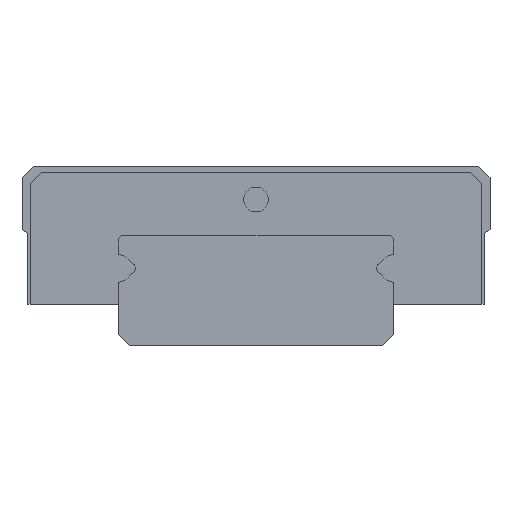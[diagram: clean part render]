
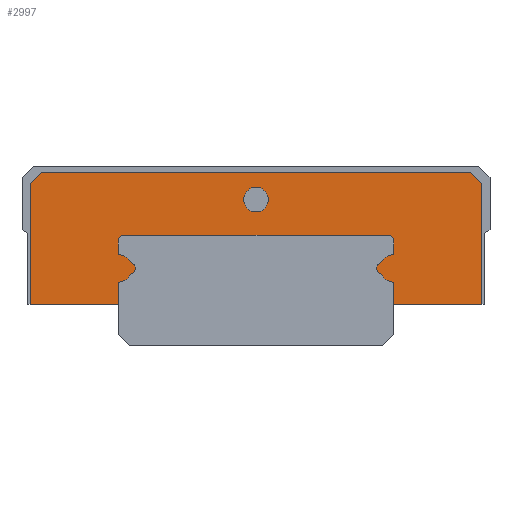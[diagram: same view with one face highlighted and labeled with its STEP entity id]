
A CAD part, left-side view. The second image highlights one B-rep face of the part: STEP entity #2997.
In plain terms, the highlighted planar face has unit normal (-1, 0, 0).
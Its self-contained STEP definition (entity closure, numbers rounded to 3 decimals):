
#1477=CARTESIAN_POINT('',(0.0,0.45,5.3));
#1478=VERTEX_POINT('',#1477);
#1479=CARTESIAN_POINT('',(0.0,0.,5.3));
#1480=DIRECTION('',(1.0,0.0,0.0));
#1481=DIRECTION('',(0.0,-1.0,0.0));
#1482=AXIS2_PLACEMENT_3D('',#1479,#1480,#1481);
#1483=CIRCLE('',#1482,0.45);
#1484=EDGE_CURVE('',#1478,#1478,#1483,.T.);
#2202=CARTESIAN_POINT('',(0.0,8.2,1.5));
#2203=VERTEX_POINT('',#2202);
#2210=CARTESIAN_POINT('',(0.0,8.2,5.9));
#2211=VERTEX_POINT('',#2210);
#2212=CARTESIAN_POINT('',(0.0,8.2,5.9));
#2213=DIRECTION('',(0.0,0.0,-1.0));
#2214=VECTOR('',#2213,4.4);
#2215=LINE('',#2212,#2214);
#2216=EDGE_CURVE('',#2211,#2203,#2215,.T.);
#2265=CARTESIAN_POINT('',(0.0,7.8,6.3));
#2266=VERTEX_POINT('',#2265);
#2267=CARTESIAN_POINT('',(0.0,7.8,6.3));
#2268=DIRECTION('',(0.0,0.707,-0.707));
#2269=VECTOR('',#2268,0.566);
#2270=LINE('',#2267,#2269);
#2271=EDGE_CURVE('',#2266,#2211,#2270,.T.);
#2313=CARTESIAN_POINT('',(0.0,-7.8,6.3));
#2314=VERTEX_POINT('',#2313);
#2315=CARTESIAN_POINT('',(0.0,-7.8,6.3));
#2316=DIRECTION('',(0.0,1.0,0.0));
#2317=VECTOR('',#2316,15.6);
#2318=LINE('',#2315,#2317);
#2319=EDGE_CURVE('',#2314,#2266,#2318,.T.);
#2361=CARTESIAN_POINT('',(0.0,-8.2,5.9));
#2362=VERTEX_POINT('',#2361);
#2363=CARTESIAN_POINT('',(0.0,-8.2,5.9));
#2364=DIRECTION('',(0.0,0.707,0.707));
#2365=VECTOR('',#2364,0.566);
#2366=LINE('',#2363,#2365);
#2367=EDGE_CURVE('',#2362,#2314,#2366,.T.);
#2409=CARTESIAN_POINT('',(0.0,-8.2,1.5));
#2410=VERTEX_POINT('',#2409);
#2411=CARTESIAN_POINT('',(0.0,-8.2,1.5));
#2412=DIRECTION('',(0.0,0.0,1.0));
#2413=VECTOR('',#2412,4.4);
#2414=LINE('',#2411,#2413);
#2415=EDGE_CURVE('',#2410,#2362,#2414,.T.);
#2463=CARTESIAN_POINT('',(0.0,5.,1.5));
#2464=VERTEX_POINT('',#2463);
#2471=CARTESIAN_POINT('',(0.0,8.2,1.5));
#2472=DIRECTION('',(0.0,-1.0,0.0));
#2473=VECTOR('',#2472,3.2);
#2474=LINE('',#2471,#2473);
#2475=EDGE_CURVE('',#2203,#2464,#2474,.T.);
#2498=CARTESIAN_POINT('',(0.0,5.,2.3));
#2499=VERTEX_POINT('',#2498);
#2506=CARTESIAN_POINT('',(0.0,5.,1.5));
#2507=DIRECTION('',(0.0,0.0,1.0));
#2508=VECTOR('',#2507,0.8);
#2509=LINE('',#2506,#2508);
#2510=EDGE_CURVE('',#2464,#2499,#2509,.T.);
#2530=CARTESIAN_POINT('',(0.0,4.54,2.604));
#2531=VERTEX_POINT('',#2530);
#2538=CARTESIAN_POINT('',(0.0,5.,2.8));
#2539=DIRECTION('',(-1.0,0.0,0.0));
#2540=DIRECTION('',(0.0,0.92,0.392));
#2541=AXIS2_PLACEMENT_3D('',#2538,#2539,#2540);
#2542=CIRCLE('',#2541,0.5);
#2543=EDGE_CURVE('',#2499,#2531,#2542,.T.);
#2563=CARTESIAN_POINT('',(0.0,4.54,2.996));
#2564=VERTEX_POINT('',#2563);
#2571=CARTESIAN_POINT('',(0.0,4.58,2.8));
#2572=DIRECTION('',(-1.,0.0,0.0));
#2573=DIRECTION('',(0.0,0.2,-0.98));
#2574=AXIS2_PLACEMENT_3D('',#2571,#2572,#2573);
#2575=CIRCLE('',#2574,0.2);
#2576=EDGE_CURVE('',#2531,#2564,#2575,.T.);
#2596=CARTESIAN_POINT('',(0.0,5.,3.3));
#2597=VERTEX_POINT('',#2596);
#2604=CARTESIAN_POINT('',(0.0,5.,2.8));
#2605=DIRECTION('',(-1.0,0.0,0.0));
#2606=DIRECTION('',(0.0,0.0,-1.0));
#2607=AXIS2_PLACEMENT_3D('',#2604,#2605,#2606);
#2608=CIRCLE('',#2607,0.5);
#2609=EDGE_CURVE('',#2564,#2597,#2608,.T.);
#2628=CARTESIAN_POINT('',(0.0,5.,3.8));
#2629=VERTEX_POINT('',#2628);
#2636=CARTESIAN_POINT('',(0.0,5.,3.3));
#2637=DIRECTION('',(0.0,0.0,1.0));
#2638=VECTOR('',#2637,0.5);
#2639=LINE('',#2636,#2638);
#2640=EDGE_CURVE('',#2597,#2629,#2639,.T.);
#2660=CARTESIAN_POINT('',(0.0,4.8,4.));
#2661=VERTEX_POINT('',#2660);
#2668=CARTESIAN_POINT('',(0.0,4.8,3.8));
#2669=DIRECTION('',(1.0,0.0,0.0));
#2670=DIRECTION('',(0.0,1.0,0.0));
#2671=AXIS2_PLACEMENT_3D('',#2668,#2669,#2670);
#2672=CIRCLE('',#2671,0.2);
#2673=EDGE_CURVE('',#2629,#2661,#2672,.T.);
#2692=CARTESIAN_POINT('',(0.0,-4.8,4.0));
#2693=VERTEX_POINT('',#2692);
#2700=CARTESIAN_POINT('',(0.0,4.8,4.));
#2701=DIRECTION('',(0.0,-1.0,0.0));
#2702=VECTOR('',#2701,9.6);
#2703=LINE('',#2700,#2702);
#2704=EDGE_CURVE('',#2661,#2693,#2703,.T.);
#2730=CARTESIAN_POINT('',(0.0,-5.,3.8));
#2731=VERTEX_POINT('',#2730);
#2738=CARTESIAN_POINT('',(0.0,-4.8,3.8));
#2739=DIRECTION('',(1.0,0.0,0.0));
#2740=DIRECTION('',(0.0,0.0,1.0));
#2741=AXIS2_PLACEMENT_3D('',#2738,#2739,#2740);
#2742=CIRCLE('',#2741,0.2);
#2743=EDGE_CURVE('',#2693,#2731,#2742,.T.);
#2762=CARTESIAN_POINT('',(0.0,-5.,3.3));
#2763=VERTEX_POINT('',#2762);
#2770=CARTESIAN_POINT('',(0.0,-5.,3.8));
#2771=DIRECTION('',(0.0,0.0,-1.0));
#2772=VECTOR('',#2771,0.5);
#2773=LINE('',#2770,#2772);
#2774=EDGE_CURVE('',#2731,#2763,#2773,.T.);
#2794=CARTESIAN_POINT('',(0.0,-4.54,2.996));
#2795=VERTEX_POINT('',#2794);
#2802=CARTESIAN_POINT('',(0.0,-5.,2.8));
#2803=DIRECTION('',(-1.,0.0,0.0));
#2804=DIRECTION('',(0.0,-0.92,-0.392));
#2805=AXIS2_PLACEMENT_3D('',#2802,#2803,#2804);
#2806=CIRCLE('',#2805,0.5);
#2807=EDGE_CURVE('',#2763,#2795,#2806,.T.);
#2827=CARTESIAN_POINT('',(0.0,-4.54,2.604));
#2828=VERTEX_POINT('',#2827);
#2835=CARTESIAN_POINT('',(0.0,-4.58,2.8));
#2836=DIRECTION('',(-1.0,0.0,0.0));
#2837=DIRECTION('',(0.0,-0.2,0.98));
#2838=AXIS2_PLACEMENT_3D('',#2835,#2836,#2837);
#2839=CIRCLE('',#2838,0.2);
#2840=EDGE_CURVE('',#2795,#2828,#2839,.T.);
#2860=CARTESIAN_POINT('',(0.0,-5.,2.3));
#2861=VERTEX_POINT('',#2860);
#2868=CARTESIAN_POINT('',(0.0,-5.,2.8));
#2869=DIRECTION('',(-1.0,0.0,0.0));
#2870=DIRECTION('',(0.0,0.0,1.0));
#2871=AXIS2_PLACEMENT_3D('',#2868,#2869,#2870);
#2872=CIRCLE('',#2871,0.5);
#2873=EDGE_CURVE('',#2828,#2861,#2872,.T.);
#2892=CARTESIAN_POINT('',(0.0,-5.,1.5));
#2893=VERTEX_POINT('',#2892);
#2900=CARTESIAN_POINT('',(0.0,-5.,2.3));
#2901=DIRECTION('',(0.0,0.0,-1.0));
#2902=VECTOR('',#2901,0.8);
#2903=LINE('',#2900,#2902);
#2904=EDGE_CURVE('',#2861,#2893,#2903,.T.);
#2926=CARTESIAN_POINT('',(0.0,-5.,1.5));
#2927=DIRECTION('',(0.0,-1.0,0.0));
#2928=VECTOR('',#2927,3.2);
#2929=LINE('',#2926,#2928);
#2930=EDGE_CURVE('',#2893,#2410,#2929,.T.);
#2967=CARTESIAN_POINT('',(0.0,0.,4.242));
#2968=DIRECTION('',(1.0,0.0,0.0));
#2969=DIRECTION('',(0.0,0.0,-1.0));
#2970=AXIS2_PLACEMENT_3D('',#2967,#2968,#2969);
#2971=PLANE('',#2970);
#2972=ORIENTED_EDGE('',*,*,#2930,.T.);
#2973=ORIENTED_EDGE('',*,*,#2415,.T.);
#2974=ORIENTED_EDGE('',*,*,#2367,.T.);
#2975=ORIENTED_EDGE('',*,*,#2319,.T.);
#2976=ORIENTED_EDGE('',*,*,#2271,.T.);
#2977=ORIENTED_EDGE('',*,*,#2216,.T.);
#2978=ORIENTED_EDGE('',*,*,#2475,.T.);
#2979=ORIENTED_EDGE('',*,*,#2510,.T.);
#2980=ORIENTED_EDGE('',*,*,#2543,.T.);
#2981=ORIENTED_EDGE('',*,*,#2576,.T.);
#2982=ORIENTED_EDGE('',*,*,#2609,.T.);
#2983=ORIENTED_EDGE('',*,*,#2640,.T.);
#2984=ORIENTED_EDGE('',*,*,#2673,.T.);
#2985=ORIENTED_EDGE('',*,*,#2704,.T.);
#2986=ORIENTED_EDGE('',*,*,#2743,.T.);
#2987=ORIENTED_EDGE('',*,*,#2774,.T.);
#2988=ORIENTED_EDGE('',*,*,#2807,.T.);
#2989=ORIENTED_EDGE('',*,*,#2840,.T.);
#2990=ORIENTED_EDGE('',*,*,#2873,.T.);
#2991=ORIENTED_EDGE('',*,*,#2904,.T.);
#2992=EDGE_LOOP('',(#2972,#2973,#2974,#2975,#2976,#2977,#2978,#2979,#2980,#2981,#2982,#2983,#2984,#2985,#2986,#2987,#2988,#2989,#2990,#2991));
#2993=FACE_OUTER_BOUND('',#2992,.T.);
#2994=ORIENTED_EDGE('',*,*,#1484,.T.);
#2995=EDGE_LOOP('',(#2994));
#2996=FACE_BOUND('',#2995,.T.);
#2997=ADVANCED_FACE('',(#2993,#2996),#2971,.F.);
